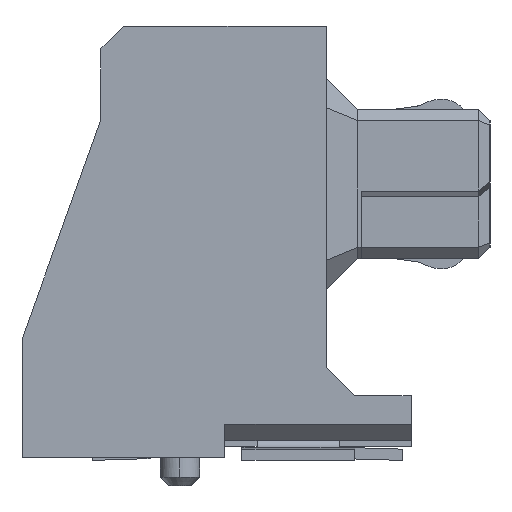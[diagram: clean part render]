
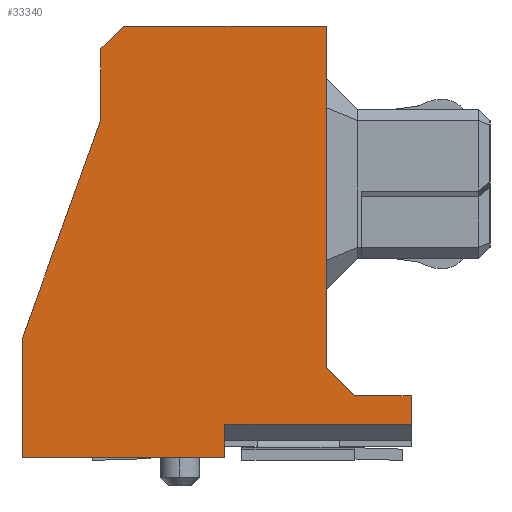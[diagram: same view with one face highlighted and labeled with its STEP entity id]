
A CAD part, left-side view. The second image highlights one B-rep face of the part: STEP entity #33340.
In plain terms, the highlighted planar face has unit normal (-1, 0, 0) as drawn and (0, 0, 1) by its records, which use the part's own axes.
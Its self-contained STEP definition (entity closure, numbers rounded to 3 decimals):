
#16880=CARTESIAN_POINT('',(24.287,-57.914,28.5));
#16890=VERTEX_POINT('',#16880);
#16920=CARTESIAN_POINT('',(45.103,0.,28.5));
#16930=DIRECTION('',(0.338,0.941,0.));
#16940=VECTOR('',#16930,1.);
#16950=LINE('',#16920,#16940);
#16960=CARTESIAN_POINT('',(22.887,-61.809,28.5));
#16970=VERTEX_POINT('',#16960);
#16980=EDGE_CURVE('',#16970,#16890,#16950,.T.);
#18080=CARTESIAN_POINT('',(29.787,-62.809,28.5));
#18090=VERTEX_POINT('',#18080);
#18120=CARTESIAN_POINT('',(0.,-62.809,28.5));
#18130=DIRECTION('',(1.,0.,0.));
#18140=VECTOR('',#18130,1.);
#18150=LINE('',#18120,#18140);
#18160=CARTESIAN_POINT('',(28.787,-62.809,28.5));
#18170=VERTEX_POINT('',#18160);
#18180=EDGE_CURVE('',#18170,#18090,#18150,.T.);
#26520=CARTESIAN_POINT('',(24.287,-56.659,28.5));
#26530=VERTEX_POINT('',#26520);
#26560=CARTESIAN_POINT('',(24.287,0.,28.5));
#26570=DIRECTION('',(0.,1.,0.));
#26580=VECTOR('',#26570,1.);
#26590=LINE('',#26560,#26580);
#26600=EDGE_CURVE('',#16890,#26530,#26590,.T.);
#28300=CARTESIAN_POINT('',(26.487,0.,28.5));
#28310=DIRECTION('',(0.,-1.,0.));
#28320=VECTOR('',#28310,1.);
#28330=LINE('',#28300,#28320);
#28340=CARTESIAN_POINT('',(26.487,-63.314,28.5));
#28350=VERTEX_POINT('',#28340);
#28360=CARTESIAN_POINT('',(26.487,-63.909,28.5));
#28370=VERTEX_POINT('',#28360);
#28380=EDGE_CURVE('',#28350,#28370,#28330,.T.);
#32650=CARTESIAN_POINT('',(0.,0.,28.5));
#32660=DIRECTION('',(0.,0.,1.));
#32670=DIRECTION('',(1.,0.,0.));
#32680=AXIS2_PLACEMENT_3D('',#32650,#32660,#32670);
#32690=PLANE('',#32680);
#32700=CARTESIAN_POINT('',(22.887,0.,28.5));
#32710=DIRECTION('',(0.,1.,0.));
#32720=VECTOR('',#32710,1.);
#32730=LINE('',#32700,#32720);
#32740=CARTESIAN_POINT('',(22.887,-63.909,28.5));
#32750=VERTEX_POINT('',#32740);
#32760=EDGE_CURVE('',#32750,#16970,#32730,.T.);
#32770=ORIENTED_EDGE('',*,*,#32760,.F.);
#32780=ORIENTED_EDGE('',*,*,#16980,.F.);
#32790=ORIENTED_EDGE('',*,*,#26600,.F.);
#32800=CARTESIAN_POINT('',(80.946,0.,28.5));
#32810=DIRECTION('',(0.707,0.707,0.));
#32820=VECTOR('',#32810,1.);
#32830=LINE('',#32800,#32820);
#32840=CARTESIAN_POINT('',(24.687,-56.259,28.5));
#32850=VERTEX_POINT('',#32840);
#32860=EDGE_CURVE('',#26530,#32850,#32830,.T.);
#32870=ORIENTED_EDGE('',*,*,#32860,.F.);
#32880=CARTESIAN_POINT('',(0.,-56.259,28.5));
#32890=DIRECTION('',(1.,0.,0.));
#32900=VECTOR('',#32890,1.);
#32910=LINE('',#32880,#32900);
#32920=CARTESIAN_POINT('',(28.287,-56.259,28.5));
#32930=VERTEX_POINT('',#32920);
#32940=EDGE_CURVE('',#32850,#32930,#32910,.T.);
#32950=ORIENTED_EDGE('',*,*,#32940,.F.);
#32960=CARTESIAN_POINT('',(28.287,0.,28.5));
#32970=DIRECTION('',(0.,1.,0.));
#32980=VECTOR('',#32970,1.);
#32990=LINE('',#32960,#32980);
#33000=CARTESIAN_POINT('',(28.287,-62.309,28.5));
#33010=VERTEX_POINT('',#33000);
#33020=EDGE_CURVE('',#33010,#32930,#32990,.T.);
#33030=ORIENTED_EDGE('',*,*,#33020,.T.);
#33040=CARTESIAN_POINT('',(0.,-34.023,28.5));
#33050=DIRECTION('',(0.707,-0.707,0.));
#33060=VECTOR('',#33050,1.);
#33070=LINE('',#33040,#33060);
#33080=EDGE_CURVE('',#33010,#18170,#33070,.T.);
#33090=ORIENTED_EDGE('',*,*,#33080,.F.);
#33100=ORIENTED_EDGE('',*,*,#18180,.F.);
#33110=CARTESIAN_POINT('',(29.787,0.,28.5));
#33120=DIRECTION('',(0.,-1.,0.));
#33130=VECTOR('',#33120,1.);
#33140=LINE('',#33110,#33130);
#33150=CARTESIAN_POINT('',(29.787,-63.314,28.5));
#33160=VERTEX_POINT('',#33150);
#33170=EDGE_CURVE('',#18090,#33160,#33140,.T.);
#33180=ORIENTED_EDGE('',*,*,#33170,.F.);
#33190=CARTESIAN_POINT('',(0.,-63.314,28.5));
#33200=DIRECTION('',(1.,0.,0.));
#33210=VECTOR('',#33200,1.);
#33220=LINE('',#33190,#33210);
#33230=EDGE_CURVE('',#28350,#33160,#33220,.T.);
#33240=ORIENTED_EDGE('',*,*,#33230,.T.);
#33250=ORIENTED_EDGE('',*,*,#28380,.F.);
#33260=CARTESIAN_POINT('',(0.,-63.909,28.5));
#33270=DIRECTION('',(1.,0.,0.));
#33280=VECTOR('',#33270,1.);
#33290=LINE('',#33260,#33280);
#33300=EDGE_CURVE('',#32750,#28370,#33290,.T.);
#33310=ORIENTED_EDGE('',*,*,#33300,.T.);
#33320=EDGE_LOOP('',(#33310,#33250,#33240,#33180,#33100,#33090,#33030,
#32950,#32870,#32790,#32780,#32770));
#33330=FACE_OUTER_BOUND('',#33320,.T.);
#33340=ADVANCED_FACE('',(#33330),#32690,.T.);
